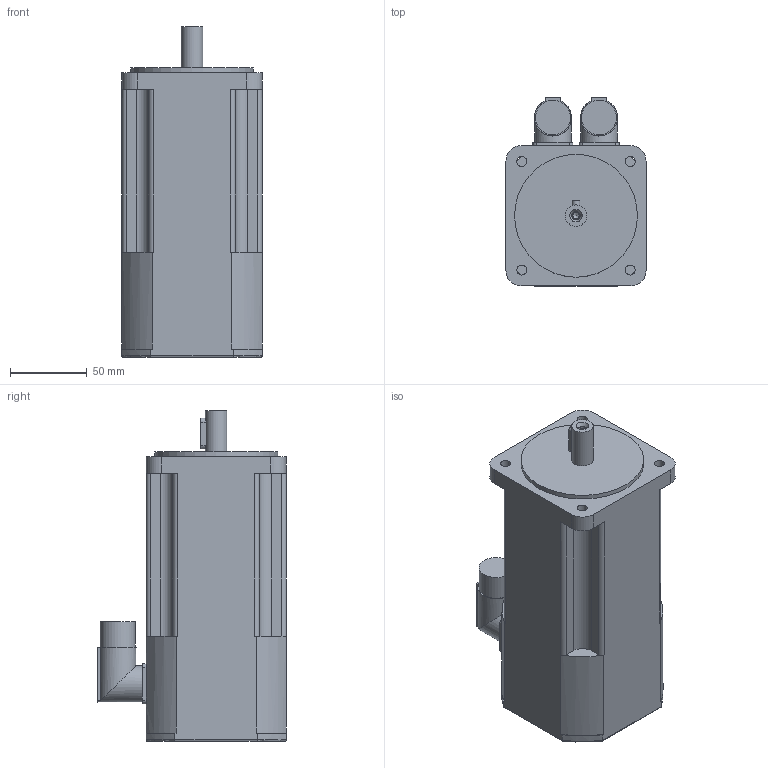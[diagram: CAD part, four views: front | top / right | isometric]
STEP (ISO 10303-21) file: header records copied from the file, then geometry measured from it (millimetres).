
FILE_DESCRIPTION(/* description */ (''),/* implementation_level */ '2;1');
FILE_NAME(/* name */ '\\Lafnas01\disegni\Archivi Lafert\3D\CAD 3D\MODELLI\Assiemi clienti\Serad\Modelli 3D Serad\B56I\Encoder\Enc Without Brake\B56D6Ixx6ARx2033.ipt.stp',/* time_stamp */ '2015-09-07T10:49:57+02:00',/* author */ ('Pastrello Ylenia'),/* organization */ (''),/* preprocessor_version */ 'ST-DEVELOPER v15.6',/* originating_system */ 'Autodesk Inventor 2015',/* authorisation */ '');
FILE_SCHEMA (('AUTOMOTIVE_DESIGN { 1 0 10303 214 3 1 1 }'));
Length unit declared in the file: millimetre
Products named in the file (1): B56D6Ixx6ARx2033
Bounding box: 91.3 x 122.8 x 215.5 mm (x, y, z)
Volume: 1448437.3 mm3; surface area: 91791 mm2
Topology: 1 solids, 1 shells, 133 faces, 339 edges, 215 vertices
Faces by surface type: plane 74, cylinder 52, torus 4, cone 3
Full cylindrical faces by diameter (mm): 4.134 x1, 5.3 x1, 6.5 x4, 14 x1, 22.7 x2, 24 x2, 80 x1
Entity records: 4088 total; most frequent: CARTESIAN_POINT 804, DIRECTION 726, ORIENTED_EDGE 640, EDGE_CURVE 320, AXIS2_PLACEMENT_3D 282, VERTEX_POINT 212, EDGE_LOOP 164, LINE 162
